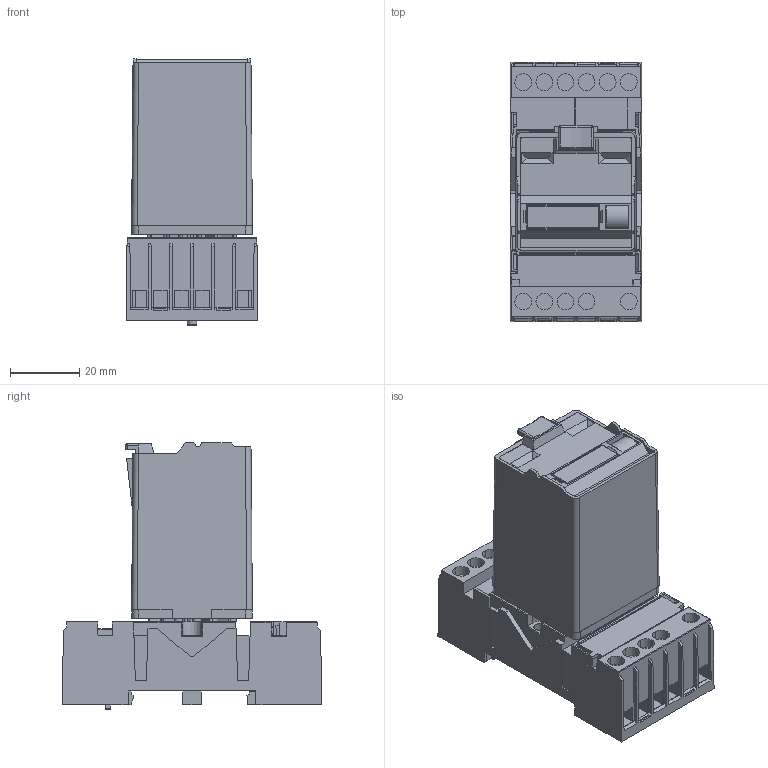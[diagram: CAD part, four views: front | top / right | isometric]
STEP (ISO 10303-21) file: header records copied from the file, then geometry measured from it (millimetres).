
FILE_DESCRIPTION (( 'STEP AP214' ), '1' );
FILE_NAME ('C3_plus_S3-M.STEP', '2024-04-04T07:37:27', ( '' ), ( '' ), 'SwSTEP 2.0', 'SolidWorks 2022', '' );
FILE_SCHEMA (( 'AUTOMOTIVE_DESIGN' ));
Length unit declared in the file: millimetre
Products named in the file (1): C3_plus_S3-M
Bounding box: 38 x 75 x 77.15 mm (x, y, z)
Volume: 111199 mm3; surface area: 31482.2 mm2
Topology: 1 solids, 30 shells, 1332 faces, 3695 edges, 2445 vertices
Faces by surface type: plane 1068, cylinder 207, cone 44, bspline 13
Entity records: 57643 total; most frequent: CARTESIAN_POINT 9633, ORIENTED_EDGE 7374, DIRECTION 6243, EDGE_CURVE 3687, VECTOR 2911, LINE 2911, VERTEX_POINT 2445, AXIS2_PLACEMENT_3D 1666
